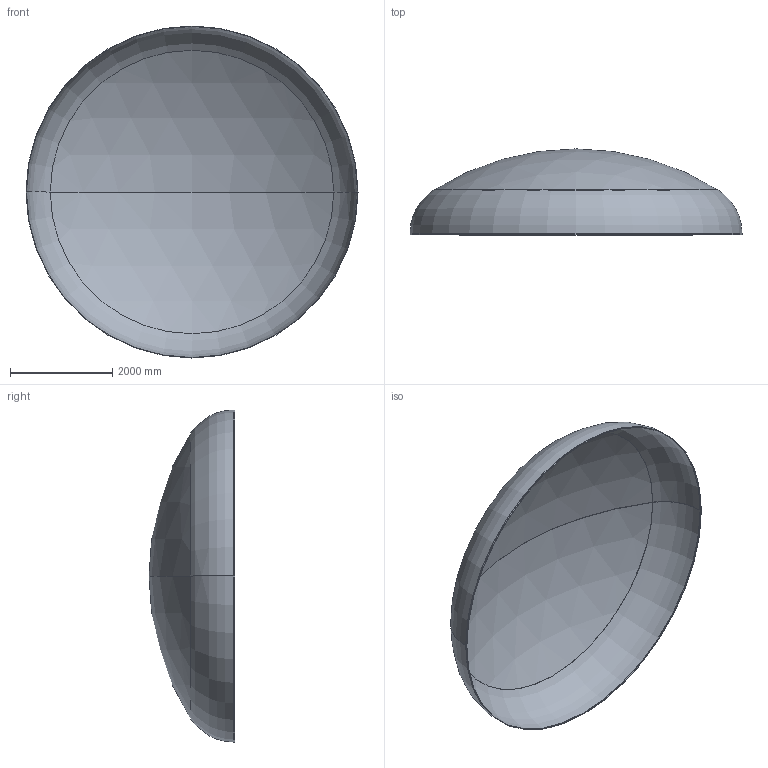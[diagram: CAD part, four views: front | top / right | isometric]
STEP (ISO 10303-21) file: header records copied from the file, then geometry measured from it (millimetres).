
FILE_DESCRIPTION (( 'STEP AP203' ), '1' );
FILE_NAME ('DIN 28013 Korbbogenform_-_Boden DIN 28013 - 6500 x 25 - I - s=8.step', '2016-07-04T10:39:39', ( '' ), ( '' ), 'SwSTEP 2.0', 'SolidWorks 2013', '' );
FILE_SCHEMA (( 'CONFIG_CONTROL_DESIGN' ));
Length unit declared in the file: millimetre
Products named in the file (1): DIN 28013 Korbbogenform_-_Boden DIN 28013 - 6500 x 25 - I - s=8
Bounding box: 6500 x 1681.46 x 6500 mm (x, y, z)
Volume: 371115136.7 mm3; surface area: 92942041.2 mm2
Topology: 1 solids, 1 shells, 13 faces, 24 edges, 14 vertices
Faces by surface type: torus 4, cylinder 4, sphere 4, plane 1
Entity records: 407 total; most frequent: DIRECTION 72, CARTESIAN_POINT 52, ORIENTED_EDGE 48, AXIS2_PLACEMENT_3D 34, EDGE_CURVE 24, CIRCLE 20, EDGE_LOOP 14, VERTEX_POINT 14
